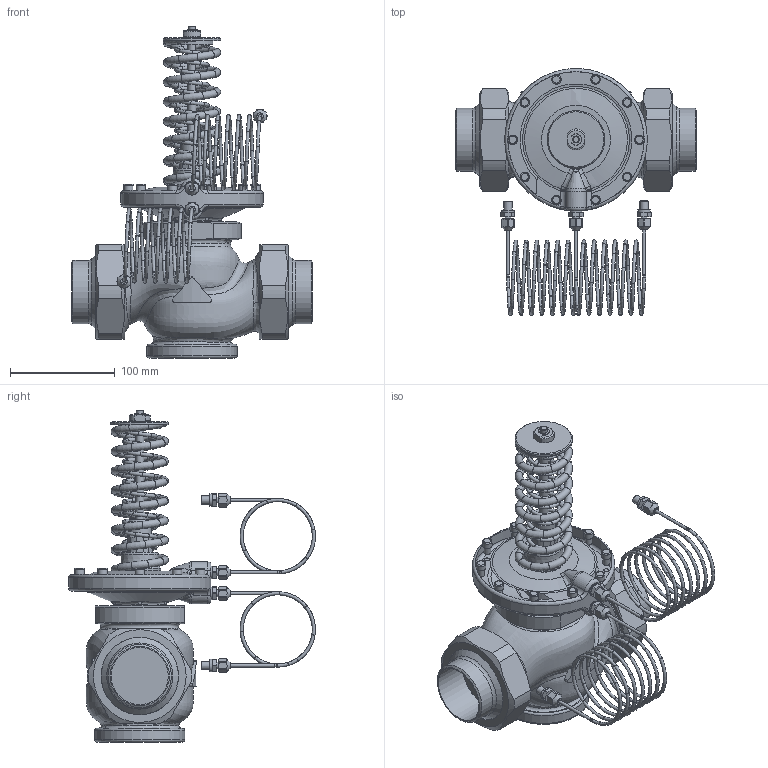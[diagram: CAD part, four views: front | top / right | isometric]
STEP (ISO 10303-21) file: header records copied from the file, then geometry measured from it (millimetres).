
FILE_DESCRIPTION(/* description */ (''),/* implementation_level */ '2;1');
FILE_NAME(/* name */ 'rd_0021-24_rd122d2_dn50_dwg.stp',/* time_stamp */ '2012-11-12T09:50:36+01:00',/* author */ ('JENIK'),/* organization */ ('LDM'),/* preprocessor_version */ 'ST-DEVELOPER v11',/* originating_system */ 'SIEMENS PLM Software NX 7.0',/* authorisation */ '');
FILE_SCHEMA (('CONFIG_CONTROL_DESIGN'));
Length unit declared in the file: millimetre
Products named in the file (1): jeniB5D7d0ls
Bounding box: 230 x 235.73 x 317 mm (x, y, z)
Volume: 698401.7 mm3; surface area: 292267 mm2
Topology: 9 solids, 22 shells, 862 faces, 1931 edges, 1155 vertices
Faces by surface type: torus 324, plane 221, cylinder 199, cone 66, bspline 45, sphere 7
Full cylindrical faces by diameter (mm): 2 x2, 3 x4, 4.891 x10, 6 x12, 6.5 x14, 6.6 x1, 7.794 x4, 8 x7, 9 x10, 12 x4, 22 x1, 24.5 x1, 30 x1, 35 x1, 38 x1, 40 x2, 54.5 x2, 55 x1, 60 x2, 60.3 x2, 73.8 x2, 74 x2, 77 x2, 77.8 x2, 78.576 x2, 81.534 x2, 86 x1, 136 x1
Entity records: 30989 total; most frequent: CARTESIAN_POINT 14372, DIRECTION 3579, ORIENTED_EDGE 2718, AXIS2_PLACEMENT_3D 1645, EDGE_LOOP 1406, EDGE_CURVE 1359, FACE_BOUND 1068, VERTEX_POINT 1043
